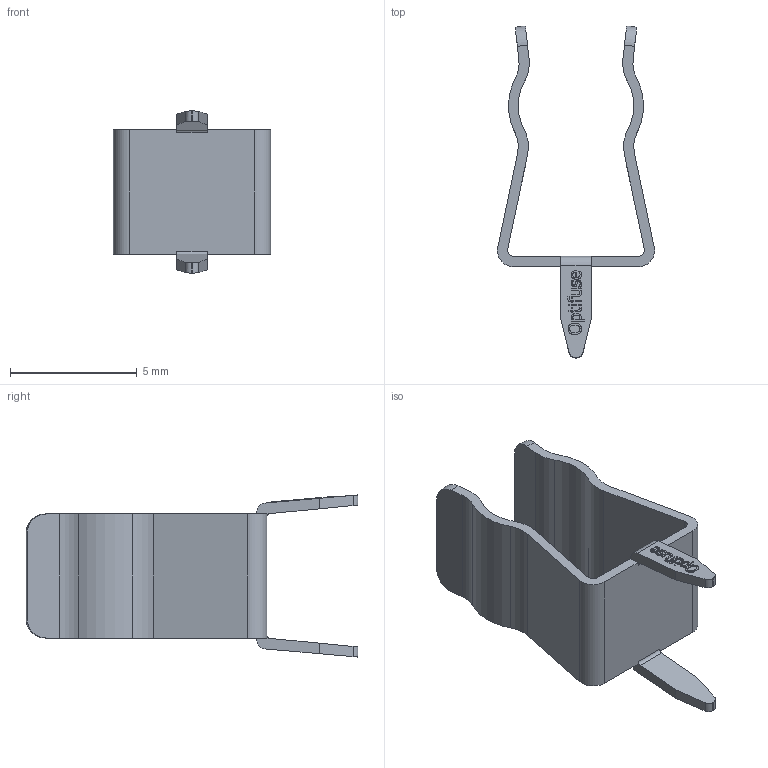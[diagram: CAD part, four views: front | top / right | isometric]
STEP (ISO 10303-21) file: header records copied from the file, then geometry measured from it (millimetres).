
FILE_DESCRIPTION(/* description */ (''),/* implementation_level */ '2;1');
FILE_NAME(/* name */ 'C:\Users\Hani\Desktop\work\CNA-01\CNA-01.stp',/* time_stamp */ '2021-10-29T14:00:26-07:00',/* author */ ('Hani'),/* organization */ (''),/* preprocessor_version */ 'ST-DEVELOPER v17',/* originating_system */ 'Autodesk Inventor 2019',/* authorisation */ '');
FILE_SCHEMA (('AUTOMOTIVE_DESIGN { 1 0 10303 214 3 1 1 }'));
Length unit declared in the file: inch
Products named in the file (1): CNA-01
Bounding box: 6.2 x 13.1 x 6.4 mm (x, y, z)
Volume: 50.8 mm3; surface area: 284.1 mm2
Topology: 1 solids, 1 shells, 194 faces, 540 edges, 360 vertices
Faces by surface type: plane 99, bspline 67, cylinder 28
Entity records: 6800 total; most frequent: CARTESIAN_POINT 2167, ORIENTED_EDGE 1080, DIRECTION 718, EDGE_CURVE 540, VERTEX_POINT 360, LINE 350, VECTOR 350, EDGE_LOOP 206
